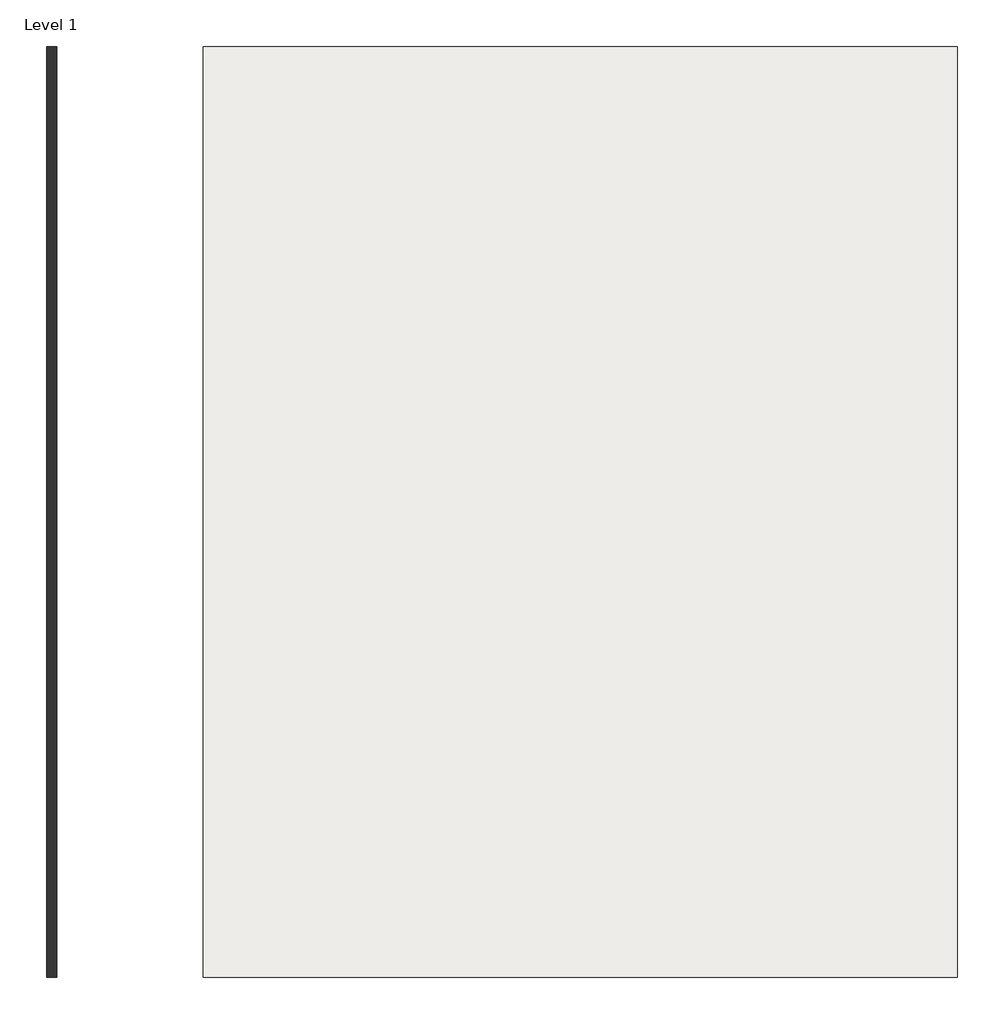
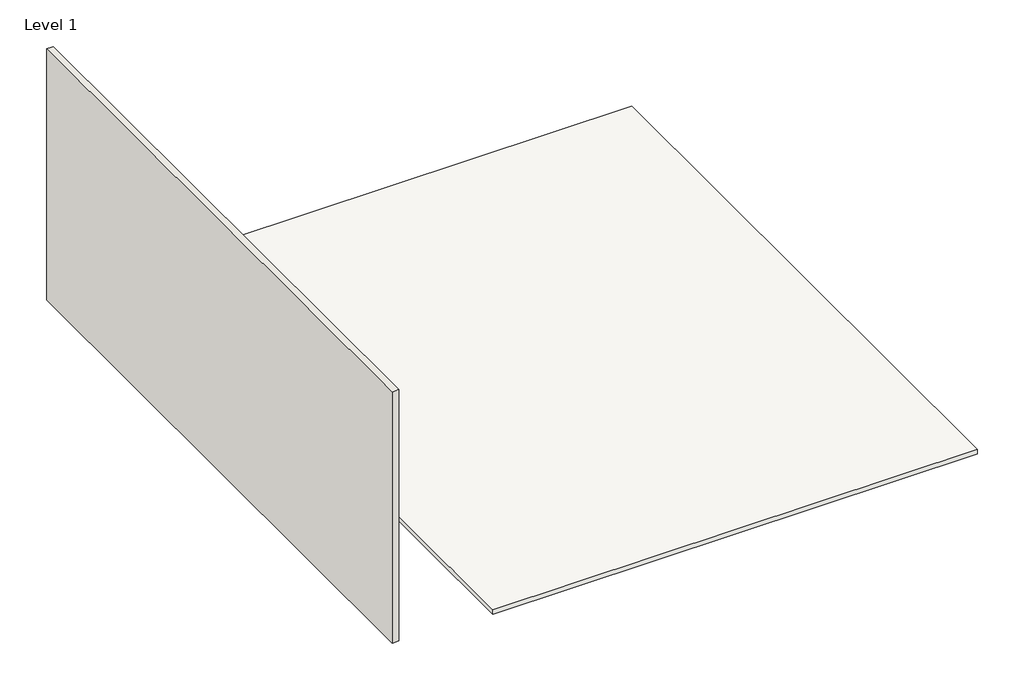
# One storey: 1 slab, 1 wall.
"""IFC4 building model written with IfcOpenShell, lengths in millimetres."""

from ifc_helpers import new_model, si_unit, frame, origin, origin_with_axes, place, context, project, spatial, polyline, outline, extrude, element, save

model = new_model("IFC4")

# Units and contexts
model_context = context("Model", 3, world=origin())
ifc_project = project(units=[si_unit("LENGTHUNIT", "METRE", prefix="MILLI")], contexts=[model_context])

# Site, building, storey
site = spatial("IfcSite", under=ifc_project)
building = spatial("IfcBuilding", under=site)
storey = spatial("IfcBuildingStorey", under=building, Name="Level 1", Elevation=0.0)

# Slab
placement = place(None, origin())
element("IfcSlab", 1, ObjectType="Generic 150mm", at=placement, inside=storey, context=model_context, shape_type="SweptSolid", body=[
    extrude(outline(polyline([(8263.8888434, 11433.3758751), (8263.8888434, -6566.6241249), (-6308.2996593, -6566.6241249), (-6308.2996593, 11433.3758751), (8263.8888434, 11433.3758751)])), frame((0.0, 0.0, -150.0), z_axis=(0.0, 0.0, 1.0), x_axis=(1.0, 0.0, 0.0)), (0.0, 0.0, 1.0), 150.0),
])

# Wall
element("IfcWall", 2, ObjectType="Generic - 200mm", at=placement, inside=storey, context=model_context, shape_type="SweptSolid", body=[
    extrude(outline(polyline([(-9342.2973444, -6566.6241249), (-9342.2973444, 11433.3758751), (-9142.2973444, 11433.3758751), (-9142.2973444, -6566.6241249), (-9342.2973444, -6566.6241249)])), origin_with_axes(), (0.0, 0.0, 1.0), 8000.0),
])

save(model, "model.ifc")
